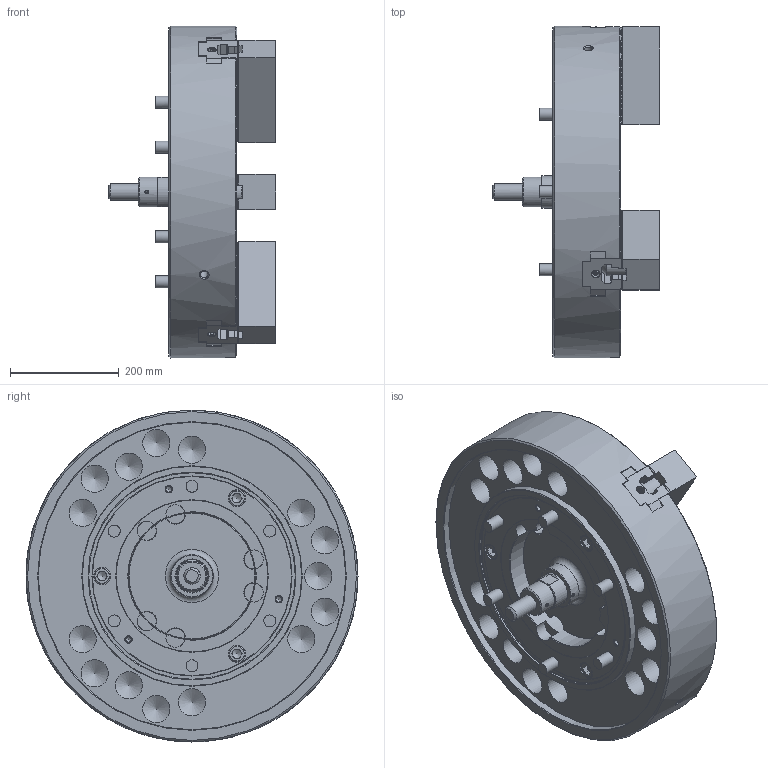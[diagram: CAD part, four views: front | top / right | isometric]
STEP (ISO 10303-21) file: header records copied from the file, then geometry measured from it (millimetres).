
FILE_DESCRIPTION (( 'STEP AP214' ), '1' );
FILE_NAME ('N-24_UC.STEP', '2020-01-27T05:15:30', ( '' ), ( '' ), 'SwSTEP 2.0', 'SolidWorks 2017', '' );
FILE_SCHEMA (( 'AUTOMOTIVE_DESIGN' ));
Length unit declared in the file: millimetre
Products named in the file (21): P322625 ソフトジョー_W_‡_[; 61P4185380 T僫僢僩b_g_棉太倌佱UA; 61P4185380 T僫僢僩b_g; N-24_UC; Part2^61P2542091 クミタテ_^_e; 俛傾僫僣僉 M20x6020x60_B迸路 M20X6020X60; 俛傾僫僣僉 M20x6020x60; Part2^61P2542091 僋儈僞僥_^_e_棉太倌I佱UA; P322625 ソフトジョー_W_‡_[_ﾃﾞﾌｫﾙﾄ_ATI≪UA
Assembly tree (16 placements, depth 2):
  P322625 ソフトジョー_W_‡_[
  P322625 ソフトジョー_W_‡_[
  P322625 ソフトジョー_W_‡_[
  61P4185380 T僫僢僩b_g
  N-24_UC
    P322625 ソフトジョー_W_‡_[_ﾃﾞﾌｫﾙﾄ_ATI≪UA  x3
    61P4185380 T僫僢僩b_g_棉太倌佱UA  x6
    俛傾僫僣僉 M20x6020x60_B迸路 M20X6020X60  x6
    Part2^61P2542091 僋儈僞僥_^_e_棉太倌I佱UA
Bounding box: 307 x 610 x 610 mm (x, y, z)
Volume: 32932190.6 mm3; surface area: 1583292.5 mm2
Topology: 16 solids, 25 shells, 4111 faces, 11727 edges, 7746 vertices
Faces by surface type: plane 3612, cylinder 262, cone 193, torus 41, sphere 3
Full cylindrical faces by diameter (mm): 6.8 x1, 8 x3, 9 x3, 10.5 x6, 11 x3, 14 x2, 15 x3, 17.5 x6, 20 x12, 21 x6, 22 x6, 30 x10, 32 x9, 33 x6, 36 x6, 50 x15, 55 x1, 60 x2, 60.5 x2, 78 x1, 234 x1, 380 x1, 381 x1, 405 x1, 565 x1, 610 x1
Entity records: 102126 total; most frequent: CARTESIAN_POINT 20089, ORIENTED_EDGE 17658, DIRECTION 15544, EDGE_CURVE 8829, VECTOR 7702, LINE 7702, VERTEX_POINT 5895, AXIS2_PLACEMENT_3D 3921
